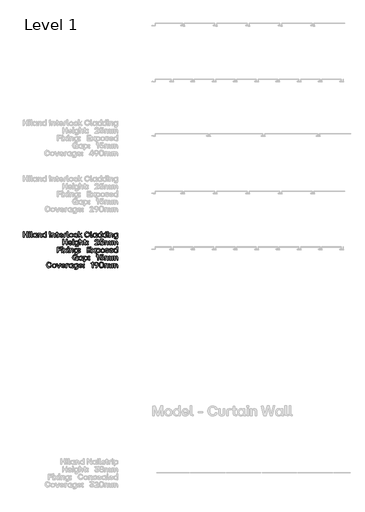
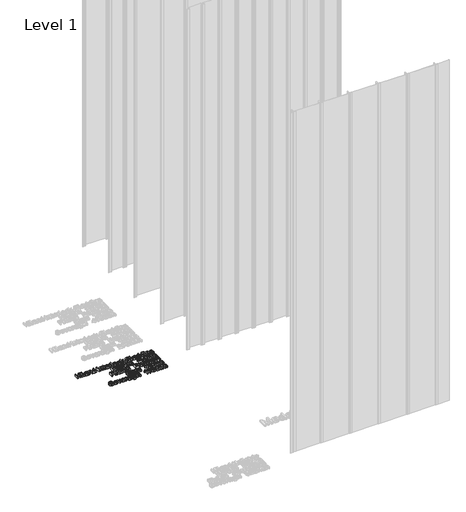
# One storey, part 15 of 64: 1 proxy.
"""IFC4 building model written with IfcOpenShell, lengths in millimetres."""

from ifc_helpers import new_model, si_unit, origin, origin_with_axes, place, context, project, spatial, polyline, outline, extrude, element, save

model = new_model("IFC4")

# Units and contexts
model_context = context("Model", 3, world=origin())
ifc_project = project(units=[si_unit("LENGTHUNIT", "METRE", prefix="MILLI")], contexts=[model_context])

# Site, building, storey
site = spatial("IfcSite", under=ifc_project)
building = spatial("IfcBuilding", under=site)
storey = spatial("IfcBuildingStorey", under=building, Name="Level 1", Elevation=0.0)

# Proxy
placement = place(None, origin())
element("IfcBuildingElementProxy", 1, Name="50mm", ObjectType="50mm", at=placement, inside=storey, context=model_context, shape_type="SweptSolid", body=[
    extrude(outline(polyline([(-1116.4360885, 96.9748178), (-1117.1334203, 118.9128767), (-1140.9821684, 118.9128767), (-1140.9821684, 97.6721497), (-1148.4854587, 96.9748178), (-1149.2106838, 146.2482839), (-1141.7213401, 146.973509), (-1140.9821684, 125.8861949), (-1117.1334203, 125.8861949), (-1117.1334203, 146.2482839), (-1109.6440766, 146.973509), (-1108.9467448, 97.6721497), (-1116.4360885, 96.9748178)])), origin_with_axes(), (0.0, 0.0, 1.0), 20.0),
    extrude(outline(polyline([(-1098.8493802, 96.9748178), (-1099.5746052, 132.6782068), (-1092.3641943, 133.3755386), (-1091.6668625, 97.6721497), (-1098.8493802, 96.9748178)])), origin_with_axes(), (0.0, 0.0, 1.0), 20.0),
    extrude(outline(polyline([(-1099.7838048, 140.0420307), (-1100.1324707, 148.0892399), (-1091.7365957, 148.8284116), (-1090.9974239, 140.3906966), (-1099.7838048, 140.0420307)])), origin_with_axes(), (0.0, 0.0, 1.0), 20.0),
    extrude(outline(polyline([(-1072.2670914, 96.9748178), (-1079.9656346, 99.6246787), (-1082.6154955, 107.3371686), (-1082.6154955, 147.6708408), (-1075.4050846, 148.4100125), (-1074.7077527, 103.2508042), (-1068.0412606, 103.2508042), (-1067.3439288, 97.6721497), (-1072.2670914, 96.9748178)])), origin_with_axes(), (0.0, 0.0, 1.0), 20.0),
    extrude(outline(polyline([(-1047.1770927, 96.5564188), (-1058.9480537, 101.5981278), (-1063.3272975, 115.105445), (-1058.9480537, 128.7452553), (-1047.1770927, 133.8357776), (-1040.5594138, 132.2319144), (-1035.5734913, 127.838724), (-1035.2527187, 132.6782068), (-1028.070201, 133.3755386), (-1027.3449759, 103.2508042), (-1023.3980778, 103.2508042), (-1022.700746, 97.6721497), (-1028.6977996, 96.9748178), (-1033.3524895, 98.282315), (-1034.9040528, 102.2048065), (-1040.2595611, 98.1602819), (-1047.1770927, 96.5564188)]), holes=[polyline([(-1055.2661417, 115.105445), (-1052.5116811, 106.2144644), (-1044.9874708, 102.9718715), (-1037.6236468, 106.2005178), (-1034.9737859, 115.105445), (-1037.6445668, 124.1010254), (-1044.9874708, 127.378485), (-1052.5116811, 124.1010254), (-1055.2661417, 115.105445)])]), origin_with_axes(), (0.0, 0.0, 1.0), 20.0),
    extrude(outline(polyline([(-1015.839001, 96.9748178), (-1016.564226, 132.6782068), (-1009.702481, 133.3755386), (-1009.0051492, 127.838724), (-1003.8414071, 132.3365142), (-997.2202415, 133.8357776), (-987.6598223, 129.6517867), (-984.3474962, 117.40664), (-984.3474962, 97.6721497), (-991.5718538, 96.9748178), (-992.2970789, 117.40664), (-994.249608, 124.7844106), (-1000.4209945, 127.0995522), (-1006.6481676, 124.749544), (-1008.6564833, 117.40664), (-1008.6564833, 97.6721497), (-1015.839001, 96.9748178)])), origin_with_axes(), (0.0, 0.0, 1.0), 20.0),
    extrude(outline(polyline([(-961.4889593, 96.5564188), (-973.2599204, 101.5981278), (-977.6391641, 115.105445), (-973.2599204, 128.7452553), (-961.4889593, 133.8357776), (-954.8712804, 132.2319144), (-949.8853579, 127.838724), (-949.5645853, 147.6708408), (-942.3820676, 148.4100125), (-941.6568425, 97.6721497), (-948.5185876, 96.9748178), (-949.2159194, 102.4837392), (-954.5714277, 98.1602819), (-961.4889593, 96.5564188)]), holes=[polyline([(-969.5780084, 115.105445), (-966.8235477, 106.2144644), (-959.2993374, 102.9718715), (-951.9355135, 106.2005178), (-949.2856526, 115.105445), (-951.9564334, 124.1010254), (-959.2993374, 127.378485), (-966.8235477, 124.1010254), (-969.5780084, 115.105445)])]), origin_with_axes(), (0.0, 0.0, 1.0), 20.0),
    extrude(outline(polyline([(-914.2795955, 96.9748178), (-914.9769273, 146.2482839), (-907.473637, 146.973509), (-906.7763051, 97.6721497), (-914.2795955, 96.9748178)])), origin_with_axes(), (0.0, 0.0, 1.0), 20.0),
    extrude(outline(polyline([(-896.2326481, 96.9748178), (-896.9578732, 132.6782068), (-890.0961281, 133.3755386), (-889.3987963, 127.838724), (-884.2350542, 132.3365142), (-877.6138887, 133.8357776), (-868.0534695, 129.6517867), (-864.7411434, 117.40664), (-864.7411434, 97.6721497), (-871.965501, 96.9748178), (-872.6907261, 117.40664), (-874.6432551, 124.7844106), (-880.8146417, 127.0995522), (-887.0418148, 124.749544), (-889.0501304, 117.40664), (-889.0501304, 97.6721497), (-896.2326481, 96.9748178)])), origin_with_axes(), (0.0, 0.0, 1.0), 20.0),
    extrude(outline(polyline([(-841.4642074, 96.9748178), (-849.1766973, 99.6246787), (-851.8265582, 107.3371686), (-851.8265582, 127.0995522), (-858.0328113, 127.0995522), (-858.7580364, 132.6782068), (-851.8265582, 133.3755386), (-851.8265582, 143.3892234), (-844.6022006, 144.1144485), (-843.9048687, 133.3755386), (-835.1184879, 133.3755386), (-834.3932628, 127.838724), (-843.9048687, 127.0995522), (-843.9048687, 103.2508042), (-835.1184879, 103.2508042), (-834.3932628, 97.6721497), (-841.4642074, 96.9748178)])), origin_with_axes(), (0.0, 0.0, 1.0), 20.0),
    extrude(outline(polyline([(-811.0605403, 96.5564188), (-824.4632578, 101.5981278), (-829.4701002, 115.105445), (-824.4841777, 128.759202), (-811.0605403, 133.8357776), (-798.780527, 128.8289351), (-794.2827368, 115.1751782), (-794.2827368, 113.264489), (-821.3392112, 112.5253173), (-818.2709512, 105.482266), (-811.0605403, 102.9718715), (-805.2726862, 104.2479887), (-802.2741594, 107.8253009), (-795.1892682, 108.4110596), (-799.8474447, 99.6455987), (-811.0605403, 96.5564188)]), holes=[polyline([(-821.269478, 118.3131714), (-802.0649599, 118.3131714), (-804.7078474, 124.9587436), (-811.0605403, 127.378485), (-818.1524048, 125.07729), (-821.269478, 118.3131714)])]), origin_with_axes(), (0.0, 0.0, 1.0), 20.0),
    extrude(outline(polyline([(-786.8212864, 96.9748178), (-787.5186182, 123.0550277), (-784.8687573, 130.7465976), (-777.1702141, 133.3755386), (-767.0170629, 133.3755386), (-766.3197311, 127.378485), (-779.6108754, 126.6811531), (-779.6108754, 97.6721497), (-786.8212864, 96.9748178)])), origin_with_axes(), (0.0, 0.0, 1.0), 20.0),
    extrude(outline(polyline([(-749.1514218, 96.9748178), (-756.849965, 99.6246787), (-759.4998259, 107.3371686), (-759.4998259, 147.6708408), (-752.2894149, 148.4100125), (-751.5920831, 103.2508042), (-744.925591, 103.2508042), (-744.2282592, 97.6721497), (-749.1514218, 96.9748178)])), origin_with_axes(), (0.0, 0.0, 1.0), 20.0),
    extrude(outline(polyline([(-722.0112676, 96.5564188), (-735.1699189, 101.6818076), (-740.2116279, 115.105445), (-735.1559723, 128.6406555), (-722.0112676, 133.8357776), (-708.7410431, 128.6406555), (-703.6714408, 115.105445), (-708.7410431, 101.6818076), (-722.0112676, 96.5564188)]), holes=[polyline([(-732.1504721, 115.105445), (-729.451798, 106.2005178), (-722.0112676, 102.9718715), (-714.4731106, 106.2144644), (-711.71865, 115.105445), (-714.459164, 124.1010254), (-722.0112676, 127.378485), (-729.451798, 124.1010254), (-732.1504721, 115.105445)])]), origin_with_axes(), (0.0, 0.0, 1.0), 20.0),
    extrude(outline(polyline([(-679.9203192, 96.5564188), (-693.2533035, 101.5981278), (-698.2601459, 115.105445), (-693.1835703, 128.6406555), (-679.9203192, 133.8357776), (-668.84669, 130.3979317), (-663.630648, 121.3116982), (-670.6458061, 120.5446332), (-674.216145, 125.844355), (-679.9203192, 127.378485), (-687.4793961, 124.1010254), (-690.1989902, 115.105445), (-687.4654495, 106.1795978), (-679.9203192, 102.9718715), (-674.041812, 104.4362683), (-671.0642052, 109.1781246), (-663.9793139, 109.8475631), (-668.6374905, 99.9942646), (-679.9203192, 96.5564188)])), origin_with_axes(), (0.0, 0.0, 1.0), 20.0),
    extrude(outline(polyline([(-655.234773, 96.9748178), (-655.9599981, 147.6708408), (-648.7495871, 148.4100125), (-648.0522553, 117.6158396), (-632.8085818, 133.0268727), (-624.9008391, 133.3755386), (-637.6201714, 118.4526377), (-623.5340687, 97.8534559), (-631.1768254, 96.9748178), (-642.8919999, 113.264489), (-648.0522553, 108.2018601), (-648.0522553, 97.6721497), (-655.234773, 96.9748178)])), origin_with_axes(), (0.0, 0.0, 1.0), 20.0),
    extrude(outline(polyline([(-577.2451828, 96.5564188), (-587.2518944, 98.2701117), (-594.9574109, 103.4111905), (-599.8736002, 111.4810629), (-601.51233, 121.9811367), (-599.8596536, 132.3051342), (-594.9016244, 140.4046433), (-587.1821612, 145.6450918), (-577.2451828, 147.391908), (-563.0684271, 142.7755714), (-556.1160289, 130.4885849), (-563.4380129, 129.6796799), (-568.601755, 137.8698421), (-577.2451828, 140.3906966), (-588.9045708, 135.4535874), (-593.1443482, 121.9811367), (-588.9254907, 108.397113), (-577.2451828, 103.5297369), (-568.4309087, 106.0157248), (-563.7448389, 113.4736886), (-556.3252284, 114.1291805), (-562.7894943, 101.1588087), (-577.2451828, 96.5564188)])), origin_with_axes(), (0.0, 0.0, 1.0), 20.0),
    extrude(outline(polyline([(-537.6088425, 96.9748178), (-545.3073857, 99.6246787), (-547.9572466, 107.3371686), (-547.9572466, 147.6708408), (-540.7468357, 148.4100125), (-540.0495039, 103.2508042), (-533.3830117, 103.2508042), (-532.6856799, 97.6721497), (-537.6088425, 96.9748178)])), origin_with_axes(), (0.0, 0.0, 1.0), 20.0),
    extrude(outline(polyline([(-512.5188438, 96.5564188), (-524.2898048, 101.5981278), (-528.6690486, 115.105445), (-524.2898048, 128.7452553), (-512.5188438, 133.8357776), (-505.9011649, 132.2319144), (-500.9152424, 127.838724), (-500.5944698, 132.6782068), (-493.4119521, 133.3755386), (-492.686727, 103.2508042), (-488.7398289, 103.2508042), (-488.0424971, 97.6721497), (-494.0395507, 96.9748178), (-498.6942406, 98.282315), (-500.2458039, 102.2048065), (-505.6013122, 98.1602819), (-512.5188438, 96.5564188)]), holes=[polyline([(-520.6078929, 115.105445), (-517.8534322, 106.2144644), (-510.3292219, 102.9718715), (-502.965398, 106.2005178), (-500.3155371, 115.105445), (-502.9863179, 124.1010254), (-510.3292219, 127.378485), (-517.8534322, 124.1010254), (-520.6078929, 115.105445)])]), origin_with_axes(), (0.0, 0.0, 1.0), 20.0),
    extrude(outline(polyline([(-467.8896077, 96.5564188), (-479.6605687, 101.5981278), (-484.0398125, 115.105445), (-479.6605687, 128.7452553), (-467.8896077, 133.8357776), (-461.2719288, 132.2319144), (-456.2860063, 127.838724), (-455.9652337, 147.6708408), (-448.782716, 148.4100125), (-448.0574909, 97.6721497), (-454.9192359, 96.9748178), (-455.6165677, 102.4837392), (-460.9720761, 98.1602819), (-467.8896077, 96.5564188)]), holes=[polyline([(-475.9786567, 115.105445), (-473.2241961, 106.2144644), (-465.6999858, 102.9718715), (-458.3361618, 106.2005178), (-455.6863009, 115.105445), (-458.3570818, 124.1010254), (-465.6999858, 127.378485), (-473.2241961, 124.1010254), (-475.9786567, 115.105445)])]), origin_with_axes(), (0.0, 0.0, 1.0), 20.0),
    extrude(outline(polyline([(-425.045541, 96.5564188), (-436.816502, 101.5981278), (-441.1957458, 115.105445), (-436.816502, 128.7452553), (-425.045541, 133.8357776), (-418.4278621, 132.2319144), (-413.4419396, 127.838724), (-413.121167, 147.6708408), (-405.9386493, 148.4100125), (-405.2134242, 97.6721497), (-412.0751692, 96.9748178), (-412.7725011, 102.4837392), (-418.1280094, 98.1602819), (-425.045541, 96.5564188)]), holes=[polyline([(-433.13459, 115.105445), (-430.3801294, 106.2144644), (-422.8559191, 102.9718715), (-415.4920951, 106.2005178), (-412.8422342, 115.105445), (-415.5130151, 124.1010254), (-422.8559191, 127.378485), (-430.3801294, 124.1010254), (-433.13459, 115.105445)])]), origin_with_axes(), (0.0, 0.0, 1.0), 20.0),
    extrude(outline(polyline([(-395.4926187, 96.9748178), (-396.2178438, 132.6782068), (-389.0074328, 133.3755386), (-388.310101, 97.6721497), (-395.4926187, 96.9748178)])), origin_with_axes(), (0.0, 0.0, 1.0), 20.0),
    extrude(outline(polyline([(-396.4270433, 140.0420307), (-396.7757092, 148.0892399), (-388.3798342, 148.8284116), (-387.6406625, 140.3906966), (-396.4270433, 140.0420307)])), origin_with_axes(), (0.0, 0.0, 1.0), 20.0),
    extrude(outline(polyline([(-378.533509, 96.9748178), (-379.258734, 132.6782068), (-372.396989, 133.3755386), (-371.6996572, 127.838724), (-366.5359151, 132.3365142), (-359.9147495, 133.8357776), (-350.3543303, 129.6517867), (-347.0420042, 117.40664), (-347.0420042, 97.6721497), (-354.2663618, 96.9748178), (-354.9915869, 117.40664), (-356.944116, 124.7844106), (-363.1155025, 127.0995522), (-369.3426756, 124.749544), (-371.3509913, 117.40664), (-371.3509913, 97.6721497), (-378.533509, 96.9748178)])), origin_with_axes(), (0.0, 0.0, 1.0), 20.0),
    extrude(outline(polyline([(-332.7606486, 83.4186874), (-333.4998204, 88.9973419), (-312.2590933, 89.6946737), (-312.2590933, 102.5534724), (-317.5657884, 98.1602819), (-324.1834673, 96.5564188), (-335.9544284, 101.6329944), (-340.3336722, 115.2449114), (-335.9544284, 128.7801219), (-324.1834673, 133.8357776), (-317.2659357, 132.2319144), (-312.1893601, 127.9084571), (-311.9104274, 132.6782068), (-305.0765756, 133.3755386), (-304.3513505, 93.4184256), (-306.9314782, 85.9778951), (-314.3510887, 83.4186874), (-332.7606486, 83.4186874)]), holes=[polyline([(-332.2725164, 115.2449114), (-329.5180557, 106.249331), (-321.9938454, 102.9718715), (-314.6509414, 106.249331), (-311.9801606, 115.2449114), (-314.6300215, 124.156812), (-321.9938454, 127.378485), (-329.5180557, 124.135892), (-332.2725164, 115.2449114)])]), origin_with_axes(), (0.0, 0.0, 1.0), 20.0),
    extrude(outline(polyline([(-763.8651231, 29.1231234), (-764.5624549, 51.0611823), (-788.4112029, 51.0611823), (-788.4112029, 29.8204552), (-795.9144933, 29.1231234), (-796.6397184, 78.3965894), (-789.1503747, 79.1218145), (-788.4112029, 58.0345004), (-764.5624549, 58.0345004), (-764.5624549, 78.3965894), (-757.0731112, 79.1218145), (-756.3757794, 29.8204552), (-763.8651231, 29.1231234)])), origin_with_axes(), (0.0, 0.0, 1.0), 20.0),
    extrude(outline(polyline([(-730.7279152, 28.7047243), (-744.1306327, 33.7464333), (-749.1374751, 47.2537506), (-744.1515527, 60.9075075), (-730.7279152, 65.9840831), (-718.447902, 60.9772407), (-713.9501118, 47.3234838), (-713.9501118, 45.4127946), (-741.0065862, 44.6736229), (-737.9383262, 37.6305715), (-730.7279152, 35.120177), (-724.9400612, 36.3962942), (-721.9415344, 39.9736064), (-714.8566431, 40.5593652), (-719.5148197, 31.7939042), (-730.7279152, 28.7047243)]), holes=[polyline([(-740.936853, 50.4614769), (-721.7323348, 50.4614769), (-724.3752224, 57.1070491), (-730.7279152, 59.5267905), (-737.8197798, 57.2255955), (-740.936853, 50.4614769)])]), origin_with_axes(), (0.0, 0.0, 1.0), 20.0),
    extrude(outline(polyline([(-706.1121022, 29.1231234), (-706.8373273, 64.8265123), (-699.6269163, 65.5238441), (-698.9295845, 29.8204552), (-706.1121022, 29.1231234)])), origin_with_axes(), (0.0, 0.0, 1.0), 20.0),
    extrude(outline(polyline([(-707.0465268, 72.1903363), (-707.3951927, 80.2375454), (-698.9993177, 80.9767171), (-698.2601459, 72.5390022), (-707.0465268, 72.1903363)])), origin_with_axes(), (0.0, 0.0, 1.0), 20.0),
    extrude(outline(polyline([(-684.4390294, 15.5669929), (-685.1782011, 21.1456474), (-663.937474, 21.8429792), (-663.937474, 34.7017779), (-669.2441691, 30.3085875), (-675.8618481, 28.7047243), (-687.6328091, 33.7812999), (-692.0120529, 47.3932169), (-687.6328091, 60.9284275), (-675.8618481, 65.9840831), (-668.9443165, 64.3802199), (-663.8677409, 60.0567627), (-663.5888081, 64.8265123), (-656.7549563, 65.5238441), (-656.0297313, 25.5667311), (-658.609859, 18.1262007), (-666.0294695, 15.5669929), (-684.4390294, 15.5669929)]), holes=[polyline([(-683.9508971, 47.3932169), (-681.1964364, 38.3976365), (-673.6722262, 35.120177), (-666.3293222, 38.3976365), (-663.6585413, 47.3932169), (-666.3084022, 56.3051175), (-673.6722262, 59.5267905), (-681.1964364, 56.2841976), (-683.9508971, 47.3932169)])]), origin_with_axes(), (0.0, 0.0, 1.0), 20.0),
    extrude(outline(polyline([(-646.3089258, 29.1231234), (-647.0341508, 79.8191463), (-639.8237399, 80.558318), (-639.1264081, 60.2659622), (-634.0393725, 64.5545529), (-627.6901663, 65.9840831), (-618.1297471, 61.8000922), (-614.817421, 49.5549456), (-614.817421, 29.8204552), (-622.0417786, 29.1231234), (-622.7670037, 49.5549456), (-624.7195328, 56.9327162), (-630.8909193, 59.2478578), (-637.1180924, 56.8978496), (-639.1264081, 49.5549456), (-639.1264081, 29.8204552), (-646.3089258, 29.1231234)])), origin_with_axes(), (0.0, 0.0, 1.0), 20.0),
    extrude(outline(polyline([(-591.540485, 29.1231234), (-599.2529749, 31.7729843), (-601.9028358, 39.4854742), (-601.9028358, 59.2478578), (-608.109089, 59.2478578), (-608.834314, 64.8265123), (-601.9028358, 65.5238441), (-601.9028358, 75.537529), (-594.6784782, 76.2627541), (-593.9811464, 65.5238441), (-585.1947655, 65.5238441), (-584.4695404, 59.9870295), (-593.9811464, 59.2478578), (-593.9811464, 35.3991097), (-585.1947655, 35.3991097), (-584.4695404, 29.8204552), (-591.540485, 29.1231234)])), origin_with_axes(), (0.0, 0.0, 1.0), 20.0),
    extrude(outline(polyline([(-577.0638766, 52.7626719), (-577.7612084, 62.3858509), (-568.2774957, 63.1250227), (-567.5522706, 53.4600037), (-577.0638766, 52.7626719)])), origin_with_axes(), (0.0, 0.0, 1.0), 20.0),
    extrude(outline(polyline([(-577.4125425, 29.4717893), (-577.7612084, 38.7463024), (-568.2774957, 39.4854742), (-567.5522706, 29.8204552), (-577.4125425, 29.4717893)])), origin_with_axes(), (0.0, 0.0, 1.0), 20.0),
    extrude(outline(polyline([(-509.5761036, 29.1231234), (-510.3013286, 33.9068196), (-492.9377665, 49.9036115), (-485.7901154, 57.8183276), (-483.8027197, 65.105445), (-485.783142, 70.7852127), (-491.7244091, 72.6784685), (-498.5931275, 70.6004197), (-501.4452146, 64.031554), (-508.8787717, 63.3342222), (-504.2903284, 75.5305557), (-491.7244091, 79.5402136), (-479.8976615, 75.670022), (-475.5742043, 65.105445), (-478.2589318, 55.328853), (-487.4288451, 44.9246623), (-496.8846645, 36.4172142), (-474.1516474, 36.1382814), (-473.4543156, 29.8204552), (-509.5761036, 29.1231234)])), origin_with_axes(), (0.0, 0.0, 1.0), 20.0),
    extrude(outline(polyline([(-448.1969572, 28.7047243), (-461.3974485, 32.4005829), (-467.2062225, 43.1115996), (-459.8423985, 43.9065579), (-455.634001, 37.4736719), (-448.1969572, 35.5385761), (-440.7912934, 38.2233036), (-438.197219, 45.8311937), (-440.7773467, 53.1322578), (-448.3364236, 55.6217323), (-458.6987744, 51.6887809), (-463.5382572, 51.9677136), (-462.4922594, 78.3965894), (-432.8556573, 79.1218145), (-432.1304322, 72.8179349), (-455.8397139, 72.1206031), (-456.6346722, 59.4570573), (-451.4604701, 61.6536525), (-445.7562959, 62.4555841), (-434.2015077, 58.0275271), (-429.9965969, 45.8311937), (-434.8081864, 33.2234345), (-448.1969572, 28.7047243)])), origin_with_axes(), (0.0, 0.0, 1.0), 20.0),
    extrude(outline(polyline([(-421.3775756, 29.1231234), (-422.1028007, 64.8265123), (-415.2410557, 65.5238441), (-414.5437239, 59.9870295), (-409.5578014, 64.4848197), (-403.1074821, 65.9840831), (-396.8210358, 64.4848197), (-392.605665, 59.9870295), (-386.7829443, 64.4290332), (-379.5376668, 65.9840831), (-370.2631536, 61.8140389), (-367.0554273, 49.5549456), (-367.0554273, 29.8204552), (-374.2658383, 29.1231234), (-374.9631701, 49.5549456), (-376.845966, 56.9327162), (-382.8151263, 59.2478578), (-388.7215268, 56.8978496), (-390.6252426, 49.5549456), (-390.6252426, 29.8204552), (-397.8356536, 29.1231234), (-398.5329854, 49.5549456), (-400.4018347, 56.9327162), (-406.3152085, 59.2478578), (-412.2913421, 56.8978496), (-414.195058, 49.5549456), (-414.195058, 29.8204552), (-421.3775756, 29.1231234)])), origin_with_axes(), (0.0, 0.0, 1.0), 20.0),
    extrude(outline(polyline([(-358.0040603, 29.1231234), (-358.7292854, 64.8265123), (-351.8675404, 65.5238441), (-351.1702086, 59.9870295), (-346.1842861, 64.4848197), (-339.7339668, 65.9840831), (-333.4475205, 64.4848197), (-329.2321497, 59.9870295), (-323.409429, 64.4290332), (-316.1641515, 65.9840831), (-306.8896383, 61.8140389), (-303.681912, 49.5549456), (-303.681912, 29.8204552), (-310.8923229, 29.1231234), (-311.5896548, 49.5549456), (-313.4724507, 56.9327162), (-319.441611, 59.2478578), (-325.3480115, 56.8978496), (-327.2517273, 49.5549456), (-327.2517273, 29.8204552), (-334.4621383, 29.1231234), (-335.1594701, 49.5549456), (-337.0283194, 56.9327162), (-342.9416931, 59.2478578), (-348.9178268, 56.8978496), (-350.8215426, 49.5549456), (-350.8215426, 29.8204552), (-358.0040603, 29.1231234)])), origin_with_axes(), (0.0, 0.0, 1.0), 20.0),
    extrude(outline(polyline([(-845.006653, -38.7285711), (-845.7318781, 10.544895), (-814.1427469, 11.27012), (-813.4454151, 4.9662404), (-837.5033627, 4.2689086), (-837.5033627, -10.7934586), (-815.5792504, -10.7934586), (-814.8819186, -17.0694449), (-837.5033627, -17.8086166), (-837.5033627, -38.0312392), (-845.006653, -38.7285711)])), origin_with_axes(), (0.0, 0.0, 1.0), 20.0),
    extrude(outline(polyline([(-805.1890064, -38.7285711), (-805.9142315, -3.0251822), (-798.7038205, -2.3278503), (-798.0064887, -38.0312392), (-805.1890064, -38.7285711)])), origin_with_axes(), (0.0, 0.0, 1.0), 20.0),
    extrude(outline(polyline([(-806.123431, 4.3386418), (-806.4720969, 12.3858509), (-798.0762219, 13.1250227), (-797.3370502, 4.6873077), (-806.123431, 4.3386418)])), origin_with_axes(), (0.0, 0.0, 1.0), 20.0),
    extrude(outline(polyline([(-791.0889571, -38.7285711), (-778.3277849, -20.249278), (-790.5310917, -3.1646485), (-782.5396691, -2.3278503), (-773.7532882, -14.3219576), (-765.5247728, -2.7462494), (-757.4078305, -2.3278503), (-769.0114319, -19.4403731), (-755.9713269, -37.849933), (-763.9627495, -38.7285711), (-773.683555, -25.2979603), (-782.9580681, -38.310172), (-791.0889571, -38.7285711)])), origin_with_axes(), (0.0, 0.0, 1.0), 20.0),
    extrude(outline(polyline([(-748.9561689, -38.7285711), (-749.681394, -3.0251822), (-742.470983, -2.3278503), (-741.7736512, -38.0312392), (-748.9561689, -38.7285711)])), origin_with_axes(), (0.0, 0.0, 1.0), 20.0),
    extrude(outline(polyline([(-749.8905935, 4.3386418), (-750.2392594, 12.3858509), (-741.8433844, 13.1250227), (-741.1042126, 4.6873077), (-749.8905935, 4.3386418)])), origin_with_axes(), (0.0, 0.0, 1.0), 20.0),
    extrude(outline(polyline([(-731.9970591, -38.7285711), (-732.7222842, -3.0251822), (-725.8605392, -2.3278503), (-725.1632074, -7.8646649), (-719.9994653, -3.3668747), (-713.3782997, -1.8676113), (-703.8178805, -6.0516022), (-700.5055544, -18.2967489), (-700.5055544, -38.0312392), (-707.729912, -38.7285711), (-708.4551371, -18.2967489), (-710.4076662, -10.9189783), (-716.5790527, -8.6038367), (-722.8062258, -10.9538449), (-724.8145414, -18.2967489), (-724.8145414, -38.0312392), (-731.9970591, -38.7285711)])), origin_with_axes(), (0.0, 0.0, 1.0), 20.0),
    extrude(outline(polyline([(-686.2241988, -52.2847015), (-686.9633706, -46.706047), (-665.7226435, -46.0087152), (-665.7226435, -33.1499165), (-671.0293386, -37.543107), (-677.6470175, -39.1469702), (-689.4179785, -34.0703945), (-693.7972223, -20.4584775), (-689.4179785, -6.923267), (-677.6470175, -1.8676113), (-670.7294859, -3.4714745), (-665.6529103, -7.7949318), (-665.3739776, -3.0251822), (-658.5401258, -2.3278503), (-657.8149007, -42.2849633), (-660.3950284, -49.7254938), (-667.8146389, -52.2847015), (-686.2241988, -52.2847015)]), holes=[polyline([(-685.7360666, -20.4584775), (-682.9816059, -29.4540579), (-675.4573956, -32.7315175), (-668.1144916, -29.4540579), (-665.4437108, -20.4584775), (-668.0935716, -11.5465769), (-675.4573956, -8.3249039), (-682.9816059, -11.5674969), (-685.7360666, -20.4584775)])]), origin_with_axes(), (0.0, 0.0, 1.0), 20.0),
    extrude(outline(polyline([(-648.4706544, -15.0890225), (-649.1679862, -5.4658435), (-639.6842735, -4.7266718), (-638.9590484, -14.3916907), (-648.4706544, -15.0890225)])), origin_with_axes(), (0.0, 0.0, 1.0), 20.0),
    extrude(outline(polyline([(-648.8193203, -38.3799052), (-649.1679862, -29.105392), (-639.6842735, -28.3662203), (-638.9590484, -38.0312392), (-648.8193203, -38.3799052)])), origin_with_axes(), (0.0, 0.0, 1.0), 20.0),
    extrude(outline(polyline([(-578.1238209, -38.7285711), (-578.849046, 10.544895), (-546.562583, 11.27012), (-545.8373579, 4.9662404), (-570.6205306, 4.2689086), (-570.6205306, -10.0961268), (-547.9990865, -10.0961268), (-547.2599148, -16.3721131), (-570.6205306, -17.0694449), (-570.6205306, -31.713413), (-545.8373579, -31.713413), (-545.1400261, -38.0312392), (-578.1238209, -38.7285711)])), origin_with_axes(), (0.0, 0.0, 1.0), 20.0),
    extrude(outline(polyline([(-539.3800653, -38.7285711), (-526.6188931, -20.249278), (-538.8221999, -3.1646485), (-530.8307773, -2.3278503), (-522.0443964, -14.3219576), (-513.815881, -2.7462494), (-505.6989387, -2.3278503), (-517.3025401, -19.4403731), (-504.2624351, -37.849933), (-512.2538577, -38.7285711), (-521.9746632, -25.2979603), (-531.2491764, -38.310172), (-539.3800653, -38.7285711)])), origin_with_axes(), (0.0, 0.0, 1.0), 20.0),
    extrude(outline(polyline([(-497.2472771, -52.2847015), (-497.9725022, -3.0251822), (-491.1107571, -2.3278503), (-490.4134253, -7.7949318), (-485.057917, -3.4714745), (-478.1403854, -1.8676113), (-466.3694243, -6.923267), (-461.9901805, -20.4584775), (-466.3694243, -34.0703945), (-478.1403854, -39.1469702), (-484.7580643, -37.543107), (-489.7439868, -33.1499165), (-490.0647594, -51.5873697), (-497.2472771, -52.2847015)]), holes=[polyline([(-490.3436921, -20.4584775), (-487.6729113, -29.4540579), (-480.3300073, -32.7315175), (-472.805797, -29.4540579), (-470.0513363, -20.4584775), (-472.805797, -11.5674969), (-480.3300073, -8.3249039), (-487.6938312, -11.5465769), (-490.3436921, -20.4584775)])]), origin_with_axes(), (0.0, 0.0, 1.0), 20.0),
    extrude(outline(polyline([(-439.0619105, -39.1469702), (-452.2205618, -34.0215813), (-457.2622708, -20.5979439), (-452.2066152, -7.0627334), (-439.0619105, -1.8676113), (-425.791686, -7.0627334), (-420.7220837, -20.5979439), (-425.791686, -34.0215813), (-439.0619105, -39.1469702)]), holes=[polyline([(-449.201115, -20.5979439), (-446.5024409, -29.5028712), (-439.0619105, -32.7315175), (-431.5237535, -29.4889245), (-428.7692929, -20.5979439), (-431.5098069, -11.6023635), (-439.0619105, -8.3249039), (-446.5024409, -11.6023635), (-449.201115, -20.5979439)])]), origin_with_axes(), (0.0, 0.0, 1.0), 20.0),
    extrude(outline(polyline([(-399.6905562, -39.1469702), (-410.4224928, -36.1972566), (-414.8923898, -27.7386217), (-407.9469649, -26.9436634), (-404.8647583, -31.7552529), (-399.6905562, -33.0104502), (-395.2276326, -31.8249861), (-393.5540362, -28.645153), (-394.753447, -25.7860926), (-398.8119181, -24.2938025), (-403.9024404, -23.3872711), (-411.6288769, -19.8448255), (-414.1253248, -12.7459877), (-410.4643327, -4.8312716), (-400.5970876, -1.8676113), (-390.9041754, -4.622072), (-386.6783446, -12.4391617), (-393.6237694, -13.2341199), (-396.3712568, -9.071049), (-400.5970876, -8.0041313), (-404.8508116, -9.1059156), (-406.3152085, -12.2996953), (-405.2692107, -15.0681026), (-401.461779, -16.5813126), (-396.0225909, -17.5994171), (-388.0102483, -21.0860762), (-385.7439199, -28.2267539), (-389.3700454, -36.3227763), (-399.6905562, -39.1469702)])), origin_with_axes(), (0.0, 0.0, 1.0), 20.0),
    extrude(outline(polyline([(-362.0904248, -39.1469702), (-375.4931422, -34.1052611), (-380.4999847, -20.5979439), (-375.5140622, -6.944187), (-362.0904248, -1.8676113), (-349.8104115, -6.8744538), (-345.3126213, -20.5282107), (-345.3126213, -22.4388999), (-372.3690957, -23.1780716), (-369.3008357, -30.2211229), (-362.0904248, -32.7315175), (-356.3025707, -31.4554002), (-353.3040439, -27.878088), (-346.2191527, -27.2923293), (-350.8773292, -36.0577902), (-362.0904248, -39.1469702)]), holes=[polyline([(-372.2993625, -17.3902175), (-353.0948444, -17.3902175), (-355.7377319, -10.7446453), (-362.0904248, -8.3249039), (-369.1822893, -10.6260989), (-372.2993625, -17.3902175)])]), origin_with_axes(), (0.0, 0.0, 1.0), 20.0),
    extrude(outline(polyline([(-324.1834673, -39.1469702), (-335.9544284, -34.1052611), (-340.3336722, -20.5979439), (-335.9544284, -6.9581336), (-324.1834673, -1.8676113), (-317.5657884, -3.4714745), (-312.5798659, -7.8646649), (-312.2590933, 11.9674519), (-305.0765756, 12.7066236), (-304.3513505, -38.0312392), (-311.2130956, -38.7285711), (-311.9104274, -33.2196497), (-317.2659357, -37.543107), (-324.1834673, -39.1469702)]), holes=[polyline([(-332.2725164, -20.5979439), (-329.5180557, -29.4889245), (-321.9938454, -32.7315175), (-314.6300215, -29.5028712), (-311.9801606, -20.5979439), (-314.6509414, -11.6023635), (-321.9938454, -8.3249039), (-329.5180557, -11.6023635), (-332.2725164, -20.5979439)])]), origin_with_axes(), (0.0, 0.0, 1.0), 20.0),
    extrude(outline(polyline([(-686.0847325, -106.9986646), (-695.768928, -105.2902017), (-703.2042285, -100.1648128), (-707.9373682, -92.1001704), (-709.5150814, -81.5739466), (-707.8013885, -71.2063659), (-702.6603097, -63.1155735), (-694.695037, -57.9012749), (-684.5087626, -56.1631753), (-669.9066344, -60.7795119), (-662.75201, -73.0664985), (-670.1158339, -73.8754034), (-675.4504223, -65.7096479), (-684.5087626, -63.1643867), (-696.684176, -68.080576), (-701.1470997, -81.5739466), (-696.9421888, -95.1440238), (-685.2479343, -100.0253465), (-675.115703, -96.5386874), (-670.3947666, -87.0131348), (-685.8755329, -87.0131348), (-686.600758, -80.7371485), (-663.3796086, -80.0119234), (-662.6822768, -105.8829337), (-669.0279963, -106.5802655), (-669.7253281, -99.2861747), (-676.3220871, -104.8857492), (-686.0847325, -106.9986646)])), origin_with_axes(), (0.0, 0.0, 1.0), 20.0),
    extrude(outline(polyline([(-639.2658744, -106.9986646), (-651.0368355, -101.9569556), (-655.4160793, -88.4496383), (-651.0368355, -74.809828), (-639.2658744, -69.7193058), (-632.6481955, -71.323169), (-627.662273, -75.7163594), (-627.3415004, -70.8768766), (-620.1589827, -70.1795448), (-619.4337576, -100.3042792), (-615.4868596, -100.3042792), (-614.7895277, -105.8829337), (-620.7865813, -106.5802655), (-625.4412712, -105.2727684), (-626.9928345, -101.3502769), (-632.3483428, -105.3948014), (-639.2658744, -106.9986646)]), holes=[polyline([(-647.3549235, -88.4496383), (-644.6004628, -97.340619), (-637.0762525, -100.5832119), (-629.7124286, -97.3545656), (-627.0625677, -88.4496383), (-629.7333485, -79.4540579), (-637.0762525, -76.1765984), (-644.6004628, -79.4540579), (-647.3549235, -88.4496383)])]), origin_with_axes(), (0.0, 0.0, 1.0), 20.0),
    extrude(outline(polyline([(-607.9277827, -120.136396), (-608.6530078, -70.8768766), (-601.7912627, -70.1795448), (-601.0939309, -75.6466262), (-595.7384226, -71.323169), (-588.820891, -69.7193058), (-577.0499299, -74.7749615), (-572.6706861, -88.310172), (-577.0499299, -101.922089), (-588.820891, -106.9986646), (-595.4385699, -105.3948014), (-600.4244924, -101.001611), (-600.745265, -119.4390642), (-607.9277827, -120.136396)]), holes=[polyline([(-601.0241977, -88.310172), (-598.3534169, -97.3057524), (-591.0105129, -100.5832119), (-583.4863026, -97.3057524), (-580.7318419, -88.310172), (-583.4863026, -79.4191913), (-591.0105129, -76.1765984), (-598.3743368, -79.3982714), (-601.0241977, -88.310172)])]), origin_with_axes(), (0.0, 0.0, 1.0), 20.0),
    extrude(outline(polyline([(-565.4602752, -82.940717), (-566.157607, -73.317538), (-556.6738943, -72.5783662), (-555.9486692, -82.2433852), (-565.4602752, -82.940717)])), origin_with_axes(), (0.0, 0.0, 1.0), 20.0),
    extrude(outline(polyline([(-565.8089411, -106.2315996), (-566.157607, -96.9570865), (-556.6738943, -96.2179148), (-555.9486692, -105.8829337), (-565.8089411, -106.2315996)])), origin_with_axes(), (0.0, 0.0, 1.0), 20.0),
    extrude(outline(polyline([(-485.0997569, -106.5802655), (-485.8389286, -71.5742084), (-496.8846645, -71.5742084), (-497.6238363, -65.2982221), (-485.4902627, -64.6008903), (-485.4902627, -57.3067995), (-478.1961719, -56.5815744), (-477.4709468, -105.8829337), (-485.0997569, -106.5802655)])), origin_with_axes(), (0.0, 0.0, 1.0), 20.0),
    extrude(outline(polyline([(-448.1969572, -106.9986646), (-461.3974485, -103.302806), (-467.2062225, -92.5917893), (-459.8423985, -91.796831), (-455.634001, -98.229717), (-448.1969572, -100.1648128), (-440.7912934, -97.4800853), (-438.197219, -89.8721952), (-440.7773467, -82.5711311), (-448.3364236, -80.0816566), (-458.6987744, -84.014608), (-463.5382572, -83.7356753), (-462.4922594, -57.3067995), (-432.8556573, -56.5815744), (-432.1304322, -62.885454), (-455.8397139, -63.5827858), (-456.6346722, -76.2463316), (-451.4604701, -74.0497364), (-445.7562959, -73.2478048), (-434.2015077, -77.6758618), (-429.9965969, -89.8721952), (-434.8081864, -102.4799544), (-448.1969572, -106.9986646)])), origin_with_axes(), (0.0, 0.0, 1.0), 20.0),
    extrude(outline(polyline([(-421.3775756, -106.5802655), (-422.1028007, -70.8768766), (-415.2410557, -70.1795448), (-414.5437239, -75.7163594), (-409.5578014, -71.2185692), (-403.1074821, -69.7193058), (-396.8210358, -71.2185692), (-392.605665, -75.7163594), (-386.7829443, -71.2743557), (-379.5376668, -69.7193058), (-370.2631536, -73.88935), (-367.0554273, -86.1484433), (-367.0554273, -105.8829337), (-374.2658383, -106.5802655), (-374.9631701, -86.1484433), (-376.845966, -78.7706727), (-382.8151263, -76.4555311), (-388.7215268, -78.8055393), (-390.6252426, -86.1484433), (-390.6252426, -105.8829337), (-397.8356536, -106.5802655), (-398.5329854, -86.1484433), (-400.4018347, -78.7706727), (-406.3152085, -76.4555311), (-412.2913421, -78.8055393), (-414.195058, -86.1484433), (-414.195058, -105.8829337), (-421.3775756, -106.5802655)])), origin_with_axes(), (0.0, 0.0, 1.0), 20.0),
    extrude(outline(polyline([(-358.0040603, -106.5802655), (-358.7292854, -70.8768766), (-351.8675404, -70.1795448), (-351.1702086, -75.7163594), (-346.1842861, -71.2185692), (-339.7339668, -69.7193058), (-333.4475205, -71.2185692), (-329.2321497, -75.7163594), (-323.409429, -71.2743557), (-316.1641515, -69.7193058), (-306.8896383, -73.88935), (-303.681912, -86.1484433), (-303.681912, -105.8829337), (-310.8923229, -106.5802655), (-311.5896548, -86.1484433), (-313.4724507, -78.7706727), (-319.441611, -76.4555311), (-325.3480115, -78.8055393), (-327.2517273, -86.1484433), (-327.2517273, -105.8829337), (-334.4621383, -106.5802655), (-335.1594701, -86.1484433), (-337.0283194, -78.7706727), (-342.9416931, -76.4555311), (-348.9178268, -78.8055393), (-350.8215426, -86.1484433), (-350.8215426, -105.8829337), (-358.0040603, -106.5802655)])), origin_with_axes(), (0.0, 0.0, 1.0), 20.0),
    extrude(outline(polyline([(-918.2125469, -174.8503591), (-928.2192584, -173.1366661), (-935.924775, -167.9955873), (-940.8409643, -159.9257149), (-942.4796941, -149.4256411), (-940.8270177, -139.1016436), (-935.8689885, -131.0021346), (-928.1495253, -125.761686), (-918.2125469, -124.0148698), (-904.0357911, -128.6312064), (-897.0833929, -140.918193), (-904.405377, -141.7270979), (-909.5691191, -133.5369357), (-918.2125469, -131.0160812), (-929.8719348, -135.9531904), (-934.1117123, -149.4256411), (-929.8928548, -163.0096648), (-918.2125469, -167.8770409), (-909.3982728, -165.391053), (-904.712203, -157.9330892), (-897.2925925, -157.2775973), (-903.7568584, -170.2479691), (-918.2125469, -174.8503591)])), origin_with_axes(), (0.0, 0.0, 1.0), 20.0),
    extrude(outline(polyline([(-872.8580857, -174.8503591), (-886.016737, -169.7249702), (-891.058446, -156.3013328), (-886.0027904, -142.7661223), (-872.8580857, -137.5710002), (-859.5878613, -142.7661223), (-854.518259, -156.3013328), (-859.5878613, -169.7249702), (-872.8580857, -174.8503591)]), holes=[polyline([(-882.9972903, -156.3013328), (-880.2986161, -165.2062601), (-872.8580857, -168.4349064), (-865.3199288, -165.1923134), (-862.5654681, -156.3013328), (-865.3059821, -147.3057524), (-872.8580857, -144.0282929), (-880.2986161, -147.3057524), (-882.9972903, -156.3013328)])]), origin_with_axes(), (0.0, 0.0, 1.0), 20.0),
    extrude(outline(polyline([(-836.4155251, -174.43196), (-850.8084537, -138.8680374), (-843.5562028, -138.0312392), (-832.1199611, -167.9467741), (-821.2834247, -138.5891047), (-813.9196007, -138.0312392), (-827.0294388, -173.8740945), (-836.4155251, -174.43196)])), origin_with_axes(), (0.0, 0.0, 1.0), 20.0),
    extrude(outline(polyline([(-791.4236764, -174.8503591), (-804.8263939, -169.80865), (-809.8332363, -156.3013328), (-804.8473138, -142.6475759), (-791.4236764, -137.5710002), (-779.1436631, -142.5778427), (-774.6458729, -156.2315996), (-774.6458729, -158.1422888), (-801.7023473, -158.8814605), (-798.6340873, -165.9245118), (-791.4236764, -168.4349064), (-785.6358223, -167.1587891), (-782.6372955, -163.5814769), (-775.5524043, -162.9957182), (-780.2105808, -171.7611791), (-791.4236764, -174.8503591)]), holes=[polyline([(-801.6326141, -153.0936064), (-782.428096, -153.0936064), (-785.0709835, -146.4480342), (-791.4236764, -144.0282929), (-798.5155409, -146.3294878), (-801.6326141, -153.0936064)])]), origin_with_axes(), (0.0, 0.0, 1.0), 20.0),
    extrude(outline(polyline([(-767.1844225, -174.43196), (-767.8817543, -148.3517501), (-765.2318934, -140.6601802), (-757.5333502, -138.0312392), (-747.380199, -138.0312392), (-746.6828672, -144.0282929), (-759.9740115, -144.7256247), (-759.9740115, -173.7346282), (-767.1844225, -174.43196)])), origin_with_axes(), (0.0, 0.0, 1.0), 20.0),
    extrude(outline(polyline([(-725.8465925, -174.8503591), (-737.6175536, -169.80865), (-741.9967974, -156.3013328), (-737.6175536, -142.6615225), (-725.8465925, -137.5710002), (-719.2289136, -139.1748634), (-714.2429911, -143.5680539), (-713.9222185, -138.7285711), (-706.7397008, -138.0312392), (-706.0144757, -168.1559736), (-702.0675777, -168.1559736), (-701.3702458, -173.7346282), (-707.3672994, -174.43196), (-712.0219893, -173.1244628), (-713.5735526, -169.2019714), (-718.9290609, -173.2464959), (-725.8465925, -174.8503591)]), holes=[polyline([(-733.9356416, -156.3013328), (-731.1811809, -165.1923134), (-723.6569706, -168.4349064), (-716.2931467, -165.2062601), (-713.6432858, -156.3013328), (-716.3140666, -147.3057524), (-723.6569706, -144.0282929), (-731.1811809, -147.3057524), (-733.9356416, -156.3013328)])]), origin_with_axes(), (0.0, 0.0, 1.0), 20.0),
    extrude(outline(polyline([(-689.7945377, -187.9880904), (-690.5337094, -182.4094359), (-669.2929824, -181.7121041), (-669.2929824, -168.8533055), (-674.5996775, -173.2464959), (-681.2173564, -174.8503591), (-692.9883174, -169.7737834), (-697.3675612, -156.1618664), (-692.9883174, -142.6266559), (-681.2173564, -137.5710002), (-674.2998248, -139.1748634), (-669.2232492, -143.4983207), (-668.9443165, -138.7285711), (-662.1104647, -138.0312392), (-661.3852396, -177.9883522), (-663.9653673, -185.4288827), (-671.3849778, -187.9880904), (-689.7945377, -187.9880904)]), holes=[polyline([(-689.3064054, -156.1618664), (-686.5519448, -165.1574468), (-679.0277345, -168.4349064), (-671.6848305, -165.1574468), (-669.0140496, -156.1618664), (-671.6639105, -147.2499658), (-679.0277345, -144.0282929), (-686.5519448, -147.2708858), (-689.3064054, -156.1618664)])]), origin_with_axes(), (0.0, 0.0, 1.0), 20.0),
    extrude(outline(polyline([(-636.1139346, -174.8503591), (-649.5166521, -169.80865), (-654.5234945, -156.3013328), (-649.5375721, -142.6475759), (-636.1139346, -137.5710002), (-623.8339214, -142.5778427), (-619.3361312, -156.2315996), (-619.3361312, -158.1422888), (-646.3926056, -158.8814605), (-643.3243456, -165.9245118), (-636.1139346, -168.4349064), (-630.3260806, -167.1587891), (-627.3275538, -163.5814769), (-620.2426625, -162.9957182), (-624.9008391, -171.7611791), (-636.1139346, -174.8503591)]), holes=[polyline([(-646.3228724, -153.0936064), (-627.1183542, -153.0936064), (-629.7612418, -146.4480342), (-636.1139346, -144.0282929), (-643.2057992, -146.3294878), (-646.3228724, -153.0936064)])]), origin_with_axes(), (0.0, 0.0, 1.0), 20.0),
    extrude(outline(polyline([(-611.8746808, -150.7924115), (-612.5720126, -141.1692324), (-603.0882999, -140.4300607), (-602.3630748, -150.0950796), (-611.8746808, -150.7924115)])), origin_with_axes(), (0.0, 0.0, 1.0), 20.0),
    extrude(outline(polyline([(-612.2233467, -174.0832941), (-612.5720126, -164.8087809), (-603.0882999, -164.0696092), (-602.3630748, -173.7346282), (-612.2233467, -174.0832941)])), origin_with_axes(), (0.0, 0.0, 1.0), 20.0),
    extrude(outline(polyline([(-531.5141624, -174.43196), (-532.2533342, -139.4259029), (-543.2990701, -139.4259029), (-544.0382418, -133.1499165), (-531.9046683, -132.4525847), (-531.9046683, -125.1584939), (-524.6105775, -124.4332689), (-523.8853524, -173.7346282), (-531.5141624, -174.43196)])), origin_with_axes(), (0.0, 0.0, 1.0), 20.0),
    extrude(outline(polyline([(-509.0321847, -128.5475266), (-495.0994951, -124.0148698), (-481.1877254, -128.5475266), (-476.2018029, -141.1692324), (-477.9451324, -149.8649601), (-483.4958937, -159.7182587), (-493.5374718, -174.0135609), (-501.8357204, -174.43196), (-490.4692118, -156.7197319), (-497.5401564, -158.1422888), (-509.520317, -153.5050322), (-514.0390272, -141.1692324), (-509.0321847, -128.5475266)]), holes=[polyline([(-503.0490778, -133.5683156), (-505.838405, -141.1622591), (-503.0490778, -148.7631759), (-495.0994951, -151.4479034), (-487.2754321, -148.7492292), (-484.4024251, -141.1692324), (-487.1708324, -133.5613423), (-495.0994951, -130.8766148), (-503.0490778, -133.5683156)])]), origin_with_axes(), (0.0, 0.0, 1.0), 20.0),
    extrude(outline(polyline([(-449.8705536, -174.8503591), (-458.7876842, -173.2499825), (-465.1769869, -168.448853), (-469.0210286, -160.492297), (-470.3023758, -149.4256411), (-469.0210286, -138.3607285), (-465.1769869, -130.4094025), (-458.7876842, -125.613503), (-449.8705536, -124.0148698), (-441.0092096, -125.613503), (-434.6478001, -130.4094025), (-430.8142184, -138.3607285), (-429.5363579, -149.4256411), (-430.8142184, -160.492297), (-434.6478001, -168.448853), (-441.0092096, -173.2499825), (-449.8705536, -174.8503591)]), holes=[polyline([(-459.0892802, -135.3395384), (-461.934394, -149.4256411), (-459.0892802, -163.5326637), (-449.8705536, -167.8770409), (-440.7355068, -163.4838505), (-437.8764464, -149.4326144), (-440.7355068, -135.395325), (-449.8705536, -131.0160812), (-459.0892802, -135.3395384)])]), origin_with_axes(), (0.0, 0.0, 1.0), 20.0),
    extrude(outline(polyline([(-421.3775756, -174.43196), (-422.1028007, -138.7285711), (-415.2410557, -138.0312392), (-414.5437239, -143.5680539), (-409.5578014, -139.0702637), (-403.1074821, -137.5710002), (-396.8210358, -139.0702637), (-392.605665, -143.5680539), (-386.7829443, -139.1260502), (-379.5376668, -137.5710002), (-370.2631536, -141.7410445), (-367.0554273, -154.0001378), (-367.0554273, -173.7346282), (-374.2658383, -174.43196), (-374.9631701, -154.0001378), (-376.845966, -146.6223672), (-382.8151263, -144.3072256), (-388.7215268, -146.6572338), (-390.6252426, -154.0001378), (-390.6252426, -173.7346282), (-397.8356536, -174.43196), (-398.5329854, -154.0001378), (-400.4018347, -146.6223672), (-406.3152085, -144.3072256), (-412.2913421, -146.6572338), (-414.195058, -154.0001378), (-414.195058, -173.7346282), (-421.3775756, -174.43196)])), origin_with_axes(), (0.0, 0.0, 1.0), 20.0),
    extrude(outline(polyline([(-358.0040603, -174.43196), (-358.7292854, -138.7285711), (-351.8675404, -138.0312392), (-351.1702086, -143.5680539), (-346.1842861, -139.0702637), (-339.7339668, -137.5710002), (-333.4475205, -139.0702637), (-329.2321497, -143.5680539), (-323.409429, -139.1260502), (-316.1641515, -137.5710002), (-306.8896383, -141.7410445), (-303.681912, -154.0001378), (-303.681912, -173.7346282), (-310.8923229, -174.43196), (-311.5896548, -154.0001378), (-313.4724507, -146.6223672), (-319.441611, -144.3072256), (-325.3480115, -146.6572338), (-327.2517273, -154.0001378), (-327.2517273, -173.7346282), (-334.4621383, -174.43196), (-335.1594701, -154.0001378), (-337.0283194, -146.6223672), (-342.9416931, -144.3072256), (-348.9178268, -146.6572338), (-350.8215426, -154.0001378), (-350.8215426, -173.7346282), (-358.0040603, -174.43196)])), origin_with_axes(), (0.0, 0.0, 1.0), 20.0),
])

save(model, "model.ifc")
